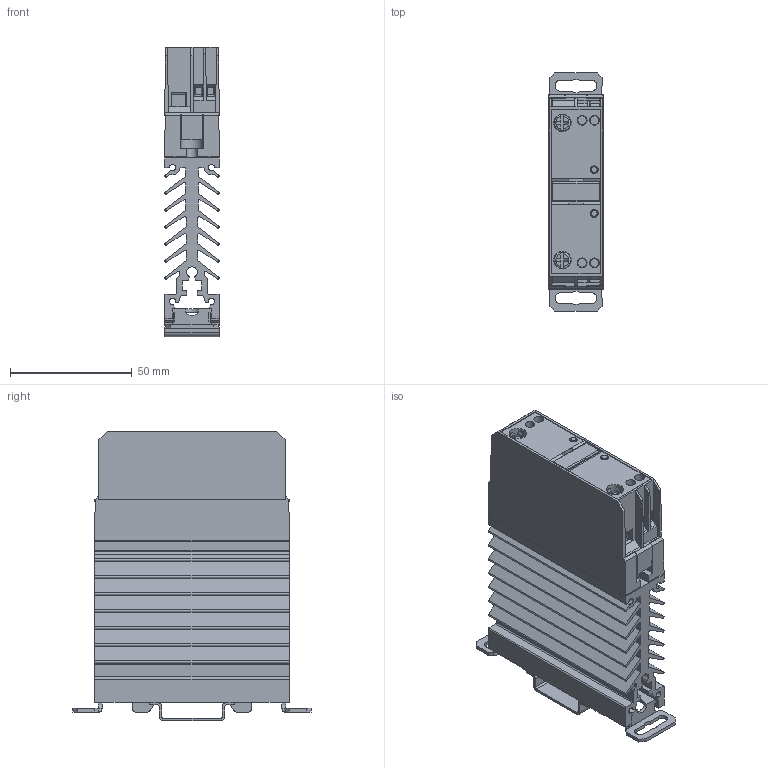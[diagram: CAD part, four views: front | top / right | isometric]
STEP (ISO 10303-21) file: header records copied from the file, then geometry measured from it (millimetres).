
FILE_DESCRIPTION((''),'2;1');
FILE_NAME('C:\Vault_local\Designs\Stock\3D pour clients\2D3D 600\2D3D 612 A.stp','2013-07-03T07:51:12',('Georges THOLLOT ','Tl : +33 (0)4 77 53 90 27','gthollot@celduc.com'),('Celduc r e l a i s','5, rue Ampre, BP 30004','42290 SORBIERS - France','Fax. : +33 (0)4 77 53 85 51','N siret 353 310 519 00015','ISO 9001 N QUAL/1993/1106b','www.celduc.com'),'Autodesk Inventor 2010','Autodesk Inventor 2010','');
FILE_SCHEMA(('CONFIG_CONTROL_DESIGN'));
Length unit declared in the file: millimetre
Products named in the file (1): Sild
Bounding box: 22.5 x 98.02 x 119 mm (x, y, z)
Volume: 119068.2 mm3; surface area: 70362.6 mm2
Topology: 1 solids, 5 shells, 1104 faces, 3073 edges, 1966 vertices
Faces by surface type: bspline 476, plane 470, cylinder 141, cone 13, torus 2, sphere 2
Full cylindrical faces by diameter (mm): 2.2 x2, 3 x1, 3.242 x1, 3.3 x1, 3.6 x2, 4 x3, 7 x1, 7.2 x1
Entity records: 39136 total; most frequent: CARTESIAN_POINT 11267, ORIENTED_EDGE 6028, DIRECTION 4656, EDGE_CURVE 3014, VECTOR 2374, LINE 2374, VERTEX_POINT 1948, EDGE_LOOP 1208
